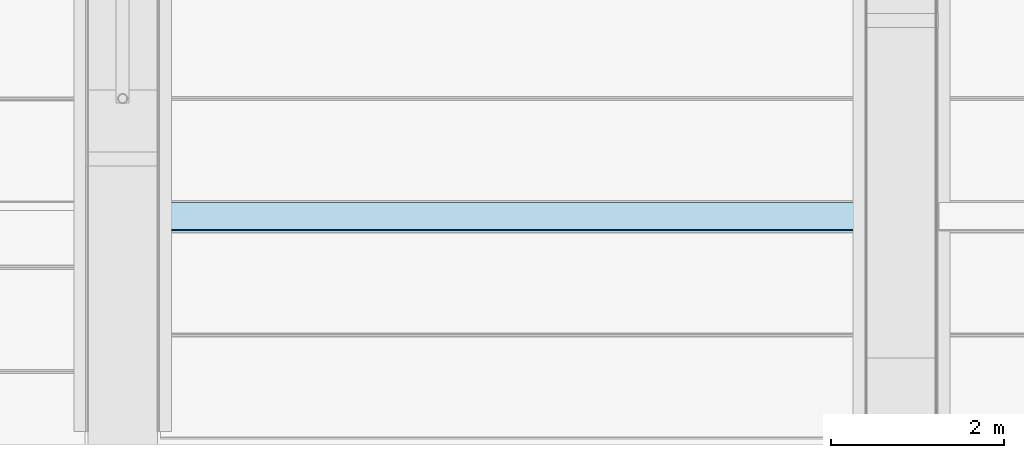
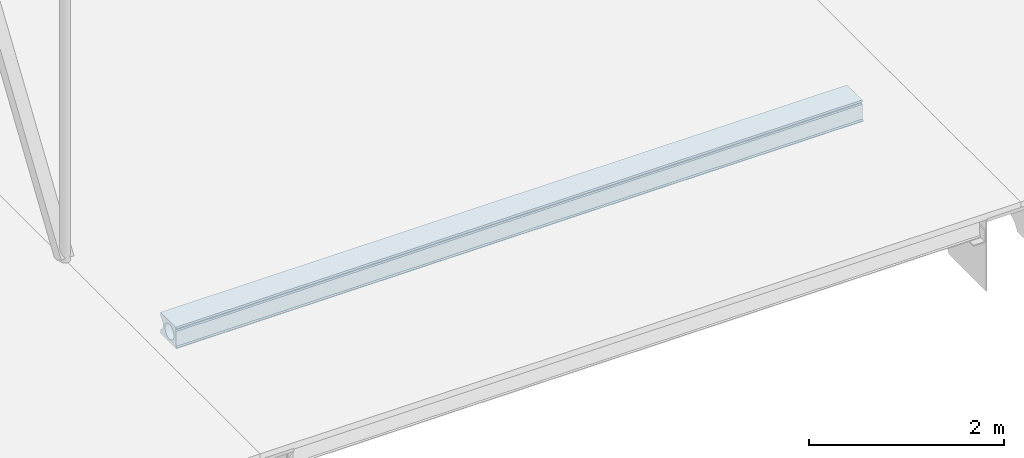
# One storey, part 14 of 21: 1 slab.
"""IFC2X3 building model written with IfcOpenShell, lengths in millimetres."""

from ifc_helpers import new_model, entity, si_unit, converted_unit, derived_unit, direction, frame, origin_with_axes, place, context, subcontext, project, spatial, faceted_brep, material, type_object, element, save


model = new_model("IFC2X3")

# Units and contexts
model_context = context("Model", 3, precision=0.01, world=frame((0.0, 4.29681676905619e-09, 0.0)), true_north=direction((4.01073788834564e-13, 1.0)))
plan_context = context("Plan", 3, precision=0.01, world=frame((0.0, 4.29681676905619e-09, 0.0)), true_north=direction((4.01073788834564e-13, 1.0)))
body_context = subcontext(model_context, "Body", "Model", "MODEL_VIEW")
ifc_project = project(units=[converted_unit("PLANEANGLEUNIT", "DEGREE", entity("IfcPositiveLengthMeasure", 0.0174532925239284), si_unit("PLANEANGLEUNIT", "RADIAN"), dimensions=[0, 0, 0, 0, 0, 0, 0]), si_unit("AREAUNIT", "SQUARE_METRE"), si_unit("LENGTHUNIT", "METRE", prefix="MILLI"), si_unit("MASSUNIT", "GRAM", prefix="KILO"), si_unit("POWERUNIT", "WATT"), si_unit("PRESSUREUNIT", "PASCAL", prefix="KILO"), si_unit("FORCEUNIT", "NEWTON", prefix="KILO"), si_unit("ELECTRICVOLTAGEUNIT", "VOLT"), si_unit("ELECTRICCURRENTUNIT", "AMPERE"), si_unit("THERMODYNAMICTEMPERATUREUNIT", "DEGREE_CELSIUS"), si_unit("TIMEUNIT", "SECOND"), si_unit("VOLUMEUNIT", "CUBIC_METRE"), derived_unit("LINEARVELOCITYUNIT", [(si_unit("LENGTHUNIT", "METRE"), 1), (si_unit("TIMEUNIT", "SECOND"), -1)]), derived_unit("VOLUMETRICFLOWRATEUNIT", [(si_unit("VOLUMEUNIT", "CUBIC_METRE"), 1), (si_unit("TIMEUNIT", "SECOND"), -1)]), derived_unit("THERMALTRANSMITTANCEUNIT", [(si_unit("POWERUNIT", "WATT"), 1), (si_unit("THERMODYNAMICTEMPERATUREUNIT", "KELVIN"), -1), (si_unit("AREAUNIT", "SQUARE_METRE"), -1)]), derived_unit("SOUNDPRESSUREUNIT", [(si_unit("PRESSUREUNIT", "PASCAL"), 1)])], contexts=[model_context, plan_context])

# Site, building, storey
site_placement = place(None, frame((0.0, -4.29681676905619e-09, 0.0), z_axis=(0.0, 0.0, 1.0), x_axis=(1.0, 0.0, 0.0)))
site = spatial("IfcSite", under=ifc_project, at=site_placement, Name="Gardermoen", CompositionType="ELEMENT")
building_placement = place(site_placement, frame((0.0, 4.29681676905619e-09, 0.0), z_axis=(0.0, 0.0, 1.0), x_axis=(1.0, 0.0, 0.0)))
building = spatial("IfcBuilding", under=site, at=building_placement, Name="TS", CompositionType="ELEMENT")
storey_placement = place(building_placement, origin_with_axes())
storey = spatial("IfcBuildingStorey", under=building, at=storey_placement, Name="F", CompositionType="ELEMENT", Elevation=0.0)

# Slab
ifc_material = material(Name="CONCRETE/C45/55")
slab_type = type_object("IfcSlabType", Name="HD265", PredefinedType="NOTDEFINED")
slab_placement = place(storey_placement, frame((718438.0, 437566.000038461, 210662.5), z_axis=(0.0, 0.0, 1.0), x_axis=(1.0, 0.0, 0.0)))
element("IfcSlab", 1, at=slab_placement, inside=storey, type_object=slab_type, material=ifc_material, Name="HULLDEKKE", ObjectType="HD265", PredefinedType="FLOOR", context=body_context, shape_type="Brep", body=[
    faceted_brep([(8124.0, -268.025133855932, 81.3513219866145), (0.0, -268.025133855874, 81.3513219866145), (0.0, -266.000607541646, 82.3410525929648), (8124.0, -266.000607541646, 82.3410525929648), (0.0, -274.592704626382, 77.437899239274), (8124.0, -274.592704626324, 77.437899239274), (0.0, -280.814675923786, 72.9954971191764), (8124.0, -280.814675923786, 72.9954971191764), (0.0, -286.648545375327, 68.0544617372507), (8124.0, -286.648545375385, 68.0544617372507), (0.0, -292.05446173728, 62.6485453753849), (8124.0, -292.05446173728, 62.6485453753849), (0.0, -296.995497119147, 56.8146759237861), (8124.0, -296.995497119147, 56.8146759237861), (0.0, -301.437899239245, 50.5927046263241), (8124.0, -301.437899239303, 50.5927046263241), (0.0, -305.351321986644, 44.0251338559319), (8124.0, -305.351321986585, 44.0251338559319), (0.0, -308.709032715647, 37.1568267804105), (8124.0, -308.709032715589, 37.1568267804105), (0.0, -311.488094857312, 30.0347009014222), (8124.0, -311.488094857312, 30.0347009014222), (0.0, -313.669524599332, 22.7074075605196), (8124.0, -313.669524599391, 22.7074075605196), (0.0, -315.238420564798, 15.2249996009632), (8124.0, -315.238420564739, 15.2249996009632), (0.0, -316.184065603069, 7.63858945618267), (8124.0, -316.184065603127, 7.63858945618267), (0.0, -316.5, 0.0), (8124.0, -316.5, 0.0), (0.0, -316.184065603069, -7.63858945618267), (8124.0, -316.184065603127, -7.63858945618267), (0.0, -315.238420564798, -15.2249996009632), (8124.0, -315.238420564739, -15.2249996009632), (0.0, -313.669524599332, -22.7074075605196), (8124.0, -313.669524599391, -22.7074075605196), (0.0, -311.488094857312, -30.0347009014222), (8124.0, -311.488094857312, -30.0347009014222), (0.0, -308.709032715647, -37.1568267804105), (8124.0, -308.709032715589, -37.1568267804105), (0.0, -305.351321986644, -44.0251338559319), (8124.0, -305.351321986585, -44.0251338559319), (0.0, -301.437899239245, -50.5927046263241), (8124.0, -301.437899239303, -50.5927046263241), (0.0, -296.995497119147, -56.8146759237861), (8124.0, -296.995497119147, -56.8146759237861), (0.0, -292.05446173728, -62.6485453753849), (8124.0, -292.05446173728, -62.6485453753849), (0.0, -286.648545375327, -68.0544617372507), (8124.0, -286.648545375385, -68.0544617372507), (0.0, -280.814675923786, -72.9954971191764), (8124.0, -280.814675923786, -72.9954971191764), (0.0, -274.592704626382, -77.437899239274), (8124.0, -274.592704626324, -77.437899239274), (0.0, -268.025133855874, -81.3513219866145), (8124.0, -268.025133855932, -81.3513219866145), (8124.0, -266.000607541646, -82.3410525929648), (0.0, -266.000607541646, -82.3410525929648), (0.0, -266.000607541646, -132.5), (8124.0, -266.000607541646, -132.5), (8124.0, -583.380004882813, -132.5), (0.0, -583.380004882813, -132.5), (0.0, -600.0, -122.5), (8124.0, -600.0, -122.5), (0.0, -600.0, -112.5), (8124.0, -600.0, -112.5), (0.0, -585.0, -102.5), (8124.0, -585.0, -102.5), (0.0, -577.5, 77.5), (8124.0, -577.5, 77.5), (0.0, -570.0, 92.5), (8124.0, -570.0, 92.5), (0.0, -577.5, 107.5), (8124.0, -577.5, 107.5), (0.0, -577.5, 132.5), (8124.0, -577.5, 132.5), (8124.0, -266.000607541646, 132.5), (0.0, -266.000607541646, 132.5), (0.0, -440.361410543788, -92.1840656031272), (0.0, -432.775000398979, -91.2384205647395), (0.0, -425.292592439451, -89.6695245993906), (0.0, -417.96529909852, -87.4880948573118), (0.0, -410.84317321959, -84.7090327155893), (0.0, -403.974866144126, -81.3513219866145), (0.0, -397.407295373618, -77.437899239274), (0.0, -391.185324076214, -72.9954971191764), (0.0, -385.351454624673, -68.0544617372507), (0.0, -379.94553826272, -62.6485453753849), (0.0, -375.004502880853, -56.8146759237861), (0.0, -370.562100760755, -50.5927046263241), (0.0, -366.648678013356, -44.0251338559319), (0.0, -363.290967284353, -37.1568267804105), (0.0, -360.511905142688, -30.0347009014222), (0.0, -358.330475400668, -22.7074075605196), (0.0, -356.761579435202, -15.2249996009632), (0.0, -355.815934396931, -7.63858945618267), (0.0, -355.5, 0.0), (0.0, -355.815934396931, 7.63858945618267), (0.0, -356.761579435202, 15.2249996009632), (0.0, -358.330475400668, 22.7074075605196), (0.0, -360.511905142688, 30.0347009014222), (0.0, -363.290967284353, 37.1568267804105), (0.0, -366.648678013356, 44.0251338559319), (0.0, -370.562100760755, 50.5927046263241), (0.0, -375.004502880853, 56.8146759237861), (0.0, -379.94553826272, 62.6485453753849), (0.0, -385.351454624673, 68.0544617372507), (0.0, -391.185324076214, 72.9954971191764), (0.0, -397.407295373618, 77.437899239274), (0.0, -403.974866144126, 81.3513219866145), (0.0, -410.84317321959, 84.7090327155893), (0.0, -417.96529909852, 87.4880948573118), (0.0, -425.292592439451, 89.6695245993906), (0.0, -432.775000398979, 91.2384205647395), (0.0, -440.361410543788, 92.1840656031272), (0.0, -448.0, 92.5), (0.0, -455.638589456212, 92.1840656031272), (0.0, -463.224999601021, 91.2384205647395), (0.0, -470.707407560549, 89.6695245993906), (0.0, -478.03470090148, 87.4880948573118), (0.0, -485.15682678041, 84.7090327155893), (0.0, -492.025133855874, 81.3513219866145), (0.0, -498.592704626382, 77.437899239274), (0.0, -504.814675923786, 72.9954971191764), (0.0, -510.648545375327, 68.0544617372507), (0.0, -516.05446173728, 62.6485453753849), (0.0, -520.995497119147, 56.8146759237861), (0.0, -525.437899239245, 50.5927046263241), (0.0, -529.351321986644, 44.0251338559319), (0.0, -532.709032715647, 37.1568267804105), (0.0, -535.488094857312, 30.0347009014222), (0.0, -537.669524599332, 22.7074075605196), (0.0, -539.238420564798, 15.2249996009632), (0.0, -540.184065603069, 7.63858945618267), (0.0, -540.5, 0.0), (0.0, -540.184065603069, -7.63858945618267), (0.0, -539.238420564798, -15.2249996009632), (0.0, -537.669524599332, -22.7074075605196), (0.0, -535.488094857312, -30.0347009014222), (0.0, -532.709032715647, -37.1568267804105), (0.0, -529.351321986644, -44.0251338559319), (0.0, -525.437899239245, -50.5927046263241), (0.0, -520.995497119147, -56.8146759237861), (0.0, -516.05446173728, -62.6485453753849), (0.0, -510.648545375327, -68.0544617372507), (0.0, -504.814675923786, -72.9954971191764), (0.0, -498.592704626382, -77.437899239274), (0.0, -492.025133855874, -81.3513219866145), (0.0, -485.15682678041, -84.7090327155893), (0.0, -478.03470090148, -87.4880948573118), (0.0, -470.707407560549, -89.6695245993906), (0.0, -463.224999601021, -91.2384205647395), (0.0, -455.638589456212, -92.1840656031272), (0.0, -448.0, -92.5), (8124.0, -448.0, -92.5), (8124.0, -440.361410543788, -92.1840656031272), (8124.0, -432.775000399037, -91.2384205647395), (8124.0, -425.292592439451, -89.6695245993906), (8124.0, -417.965299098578, -87.4880948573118), (8124.0, -410.84317321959, -84.7090327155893), (8124.0, -403.974866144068, -81.3513219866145), (8124.0, -397.407295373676, -77.437899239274), (8124.0, -391.185324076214, -72.9954971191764), (8124.0, -385.351454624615, -68.0544617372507), (8124.0, -379.94553826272, -62.6485453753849), (8124.0, -375.004502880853, -56.8146759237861), (8124.0, -370.562100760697, -50.5927046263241), (8124.0, -366.648678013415, -44.0251338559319), (8124.0, -363.290967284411, -37.1568267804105), (8124.0, -360.511905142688, -30.0347009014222), (8124.0, -358.330475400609, -22.7074075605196), (8124.0, -356.761579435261, -15.2249996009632), (8124.0, -355.815934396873, -7.63858945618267), (8124.0, -355.5, 0.0), (8124.0, -355.815934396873, 7.63858945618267), (8124.0, -356.761579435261, 15.2249996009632), (8124.0, -358.330475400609, 22.7074075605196), (8124.0, -360.511905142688, 30.0347009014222), (8124.0, -363.290967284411, 37.1568267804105), (8124.0, -366.648678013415, 44.0251338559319), (8124.0, -370.562100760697, 50.5927046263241), (8124.0, -375.004502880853, 56.8146759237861), (8124.0, -379.94553826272, 62.6485453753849), (8124.0, -385.351454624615, 68.0544617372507), (8124.0, -391.185324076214, 72.9954971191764), (8124.0, -397.407295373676, 77.437899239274), (8124.0, -403.974866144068, 81.3513219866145), (8124.0, -410.84317321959, 84.7090327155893), (8124.0, -417.965299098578, 87.4880948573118), (8124.0, -425.292592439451, 89.6695245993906), (8124.0, -432.775000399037, 91.2384205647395), (8124.0, -440.361410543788, 92.1840656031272), (8124.0, -448.0, 92.5), (8124.0, -455.638589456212, 92.1840656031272), (8124.0, -463.224999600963, 91.2384205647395), (8124.0, -470.707407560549, 89.6695245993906), (8124.0, -478.034700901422, 87.4880948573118), (8124.0, -485.15682678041, 84.7090327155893), (8124.0, -492.025133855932, 81.3513219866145), (8124.0, -498.592704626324, 77.437899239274), (8124.0, -504.814675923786, 72.9954971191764), (8124.0, -510.648545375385, 68.0544617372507), (8124.0, -516.05446173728, 62.6485453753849), (8124.0, -520.995497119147, 56.8146759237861), (8124.0, -525.437899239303, 50.5927046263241), (8124.0, -529.351321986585, 44.0251338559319), (8124.0, -532.709032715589, 37.1568267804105), (8124.0, -535.488094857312, 30.0347009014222), (8124.0, -537.669524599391, 22.7074075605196), (8124.0, -539.238420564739, 15.2249996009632), (8124.0, -540.184065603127, 7.63858945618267), (8124.0, -540.5, 0.0), (8124.0, -540.184065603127, -7.63858945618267), (8124.0, -539.238420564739, -15.2249996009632), (8124.0, -537.669524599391, -22.7074075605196), (8124.0, -535.488094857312, -30.0347009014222), (8124.0, -532.709032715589, -37.1568267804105), (8124.0, -529.351321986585, -44.0251338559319), (8124.0, -525.437899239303, -50.5927046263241), (8124.0, -520.995497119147, -56.8146759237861), (8124.0, -516.05446173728, -62.6485453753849), (8124.0, -510.648545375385, -68.0544617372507), (8124.0, -504.814675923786, -72.9954971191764), (8124.0, -498.592704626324, -77.437899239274), (8124.0, -492.025133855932, -81.3513219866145), (8124.0, -485.15682678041, -84.7090327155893), (8124.0, -478.034700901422, -87.4880948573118), (8124.0, -470.707407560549, -89.6695245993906), (8124.0, -463.224999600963, -91.2384205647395), (8124.0, -455.638589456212, -92.1840656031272)], [[[0, 1, 2, 3]], [[4, 1, 0, 5]], [[6, 4, 5, 7]], [[8, 6, 7, 9]], [[10, 8, 9, 11]], [[12, 10, 11, 13]], [[14, 12, 13, 15]], [[16, 14, 15, 17]], [[18, 16, 17, 19]], [[20, 18, 19, 21]], [[22, 20, 21, 23]], [[24, 22, 23, 25]], [[26, 24, 25, 27]], [[28, 26, 27, 29]], [[30, 28, 29, 31]], [[32, 30, 31, 33]], [[34, 32, 33, 35]], [[36, 34, 35, 37]], [[38, 36, 37, 39]], [[40, 38, 39, 41]], [[42, 40, 41, 43]], [[44, 42, 43, 45]], [[46, 44, 45, 47]], [[48, 46, 47, 49]], [[50, 48, 49, 51]], [[52, 50, 51, 53]], [[54, 52, 53, 55]], [[54, 55, 56, 57]], [[58, 57, 56, 59]], [[60, 61, 58, 59]], [[62, 61, 60, 63]], [[64, 62, 63, 65]], [[66, 64, 65, 67]], [[68, 66, 67, 69]], [[70, 68, 69, 71]], [[72, 70, 71, 73]], [[74, 72, 73, 75]], [[74, 75, 76, 77]], [[1, 4, 6, 8, 10, 12, 14, 16, 18, 20, 22, 24, 26, 28, 30, 32, 34, 36, 38, 40, 42, 44, 46, 48, 50, 52, 54, 57, 58, 61, 62, 64, 66, 68, 70, 72, 74, 77, 2], [78, 79, 80, 81, 82, 83, 84, 85, 86, 87, 88, 89, 90, 91, 92, 93, 94, 95, 96, 97, 98, 99, 100, 101, 102, 103, 104, 105, 106, 107, 108, 109, 110, 111, 112, 113, 114, 115, 116, 117, 118, 119, 120, 121, 122, 123, 124, 125, 126, 127, 128, 129, 130, 131, 132, 133, 134, 135, 136, 137, 138, 139, 140, 141, 142, 143, 144, 145, 146, 147, 148, 149, 150, 151, 152, 153]], [[78, 153, 154, 155]], [[79, 78, 155, 156]], [[80, 79, 156, 157]], [[81, 80, 157, 158]], [[82, 81, 158, 159]], [[83, 82, 159, 160]], [[84, 83, 160, 161]], [[85, 84, 161, 162]], [[86, 85, 162, 163]], [[87, 86, 163, 164]], [[88, 87, 164, 165]], [[89, 88, 165, 166]], [[90, 89, 166, 167]], [[91, 90, 167, 168]], [[92, 91, 168, 169]], [[93, 92, 169, 170]], [[94, 93, 170, 171]], [[95, 94, 171, 172]], [[96, 95, 172, 173]], [[97, 96, 173, 174]], [[98, 97, 174, 175]], [[99, 98, 175, 176]], [[100, 99, 176, 177]], [[101, 100, 177, 178]], [[102, 101, 178, 179]], [[103, 102, 179, 180]], [[104, 103, 180, 181]], [[105, 104, 181, 182]], [[106, 105, 182, 183]], [[107, 106, 183, 184]], [[108, 107, 184, 185]], [[109, 108, 185, 186]], [[110, 109, 186, 187]], [[111, 110, 187, 188]], [[112, 111, 188, 189]], [[113, 112, 189, 190]], [[114, 113, 190, 191]], [[115, 114, 191, 192]], [[116, 115, 192, 193]], [[117, 116, 193, 194]], [[118, 117, 194, 195]], [[119, 118, 195, 196]], [[120, 119, 196, 197]], [[121, 120, 197, 198]], [[122, 121, 198, 199]], [[123, 122, 199, 200]], [[124, 123, 200, 201]], [[125, 124, 201, 202]], [[126, 125, 202, 203]], [[127, 126, 203, 204]], [[128, 127, 204, 205]], [[129, 128, 205, 206]], [[130, 129, 206, 207]], [[131, 130, 207, 208]], [[132, 131, 208, 209]], [[133, 132, 209, 210]], [[134, 133, 210, 211]], [[135, 134, 211, 212]], [[136, 135, 212, 213]], [[137, 136, 213, 214]], [[138, 137, 214, 215]], [[139, 138, 215, 216]], [[140, 139, 216, 217]], [[141, 140, 217, 218]], [[142, 141, 218, 219]], [[143, 142, 219, 220]], [[144, 143, 220, 221]], [[145, 144, 221, 222]], [[146, 145, 222, 223]], [[147, 146, 223, 224]], [[148, 147, 224, 225]], [[149, 148, 225, 226]], [[150, 149, 226, 227]], [[151, 150, 227, 228]], [[152, 151, 228, 229]], [[153, 152, 229, 154]], [[75, 73, 71, 69, 67, 65, 63, 60, 59, 56, 55, 53, 51, 49, 47, 45, 43, 41, 39, 37, 35, 33, 31, 29, 27, 25, 23, 21, 19, 17, 15, 13, 11, 9, 7, 5, 0, 3, 76], [228, 227, 226, 225, 224, 223, 222, 221, 220, 219, 218, 217, 216, 215, 214, 213, 212, 211, 210, 209, 208, 207, 206, 205, 204, 203, 202, 201, 200, 199, 198, 197, 196, 195, 194, 193, 192, 191, 190, 189, 188, 187, 186, 185, 184, 183, 182, 181, 180, 179, 178, 177, 176, 175, 174, 173, 172, 171, 170, 169, 168, 167, 166, 165, 164, 163, 162, 161, 160, 159, 158, 157, 156, 155, 154, 229]], [[2, 77, 76, 3]]]),
])

save(model, "model.ifc")
